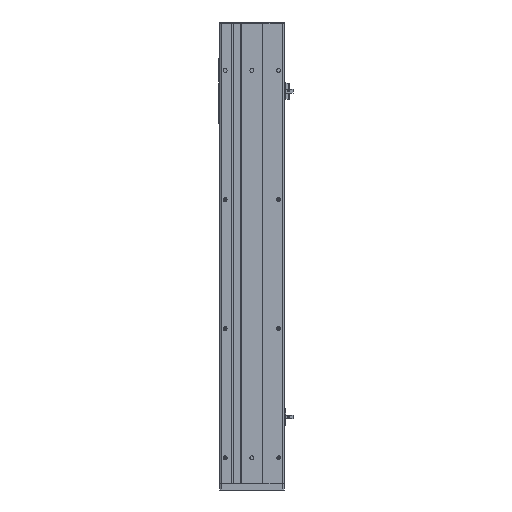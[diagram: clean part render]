
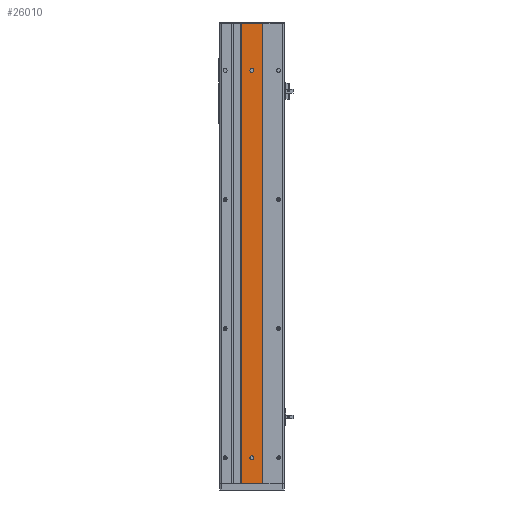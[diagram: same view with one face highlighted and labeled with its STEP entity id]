
A CAD part, front view. The second image highlights one B-rep face of the part: STEP entity #26010.
In plain terms, the highlighted planar face has unit normal (0, -1, 0).
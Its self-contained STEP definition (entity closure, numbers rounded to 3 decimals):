
#304 = DIRECTION ( 'NONE',  ( 1., 0., 0. ) ) ;
#586 = EDGE_LOOP ( 'NONE', ( #3623, #10998 ) ) ;
#946 = EDGE_CURVE ( 'NONE', #26175, #5107, #30854, .T. ) ;
#1700 = CARTESIAN_POINT ( 'NONE',  ( 0., 0., 286.5 ) ) ;
#2981 = VERTEX_POINT ( 'NONE', #20573 ) ;
#3254 = VECTOR ( 'NONE', #304, 1000. ) ;
#3623 = ORIENTED_EDGE ( 'NONE', *, *, #4183, .F. ) ;
#3786 = AXIS2_PLACEMENT_3D ( 'NONE', #12252, #12247, #12207 ) ;
#3973 = EDGE_CURVE ( 'NONE', #24787, #30326, #9943, .T. ) ;
#3986 = DIRECTION ( 'NONE',  ( 0., 0., 1. ) ) ;
#4036 = PLANE ( 'NONE',  #22137 ) ;
#4061 = VECTOR ( 'NONE', #5565, 1000. ) ;
#4153 = CARTESIAN_POINT ( 'NONE',  ( -16.5, 0., 356.5 ) ) ;
#4183 = EDGE_CURVE ( 'NONE', #8640, #29317, #11107, .T. ) ;
#4195 = CARTESIAN_POINT ( 'NONE',  ( 0., 0., 280.5 ) ) ;
#4312 = DIRECTION ( 'NONE',  ( 0., 1., 0. ) ) ;
#5107 = VERTEX_POINT ( 'NONE', #4195 ) ;
#5548 = CARTESIAN_POINT ( 'NONE',  ( 16.5, 0., 356.5 ) ) ;
#5565 = DIRECTION ( 'NONE',  ( 0., 0., -1. ) ) ;
#6244 = VECTOR ( 'NONE', #12439, 1000. ) ;
#8640 = VERTEX_POINT ( 'NONE', #26111 ) ;
#9265 = ORIENTED_EDGE ( 'NONE', *, *, #946, .F. ) ;
#9681 = CIRCLE ( 'NONE', #3786, 3. ) ;
#9943 = LINE ( 'NONE', #23205, #22267 ) ;
#10070 = LINE ( 'NONE', #31734, #3254 ) ;
#10998 = ORIENTED_EDGE ( 'NONE', *, *, #17143, .F. ) ;
#11107 = CIRCLE ( 'NONE', #17017, 3. ) ;
#11210 = DIRECTION ( 'NONE',  ( 0., 0., -1. ) ) ;
#11872 = ORIENTED_EDGE ( 'NONE', *, *, #20113, .F. ) ;
#12207 = DIRECTION ( 'NONE',  ( 0., 0., -1. ) ) ;
#12247 = DIRECTION ( 'NONE',  ( 0., -1., 0. ) ) ;
#12252 = CARTESIAN_POINT ( 'NONE',  ( 0., 0., -316.5 ) ) ;
#12264 = CARTESIAN_POINT ( 'NONE',  ( -16.5, 0., -356.5 ) ) ;
#12403 = CARTESIAN_POINT ( 'NONE',  ( -16.5, 0., 356.5 ) ) ;
#12408 = DIRECTION ( 'NONE',  ( 0., -1., 0. ) ) ;
#12439 = DIRECTION ( 'NONE',  ( 1., 0., 0. ) ) ;
#13020 = ORIENTED_EDGE ( 'NONE', *, *, #21892, .T. ) ;
#13038 = CARTESIAN_POINT ( 'NONE',  ( 0., 0., 283.5 ) ) ;
#13741 = EDGE_LOOP ( 'NONE', ( #13020, #25079, #30697, #15524 ) ) ;
#14776 = VERTEX_POINT ( 'NONE', #17090 ) ;
#15093 = LINE ( 'NONE', #5548, #4061 ) ;
#15524 = ORIENTED_EDGE ( 'NONE', *, *, #3973, .T. ) ;
#16488 = AXIS2_PLACEMENT_3D ( 'NONE', #30603, #29683, #29580 ) ;
#17017 = AXIS2_PLACEMENT_3D ( 'NONE', #20516, #20481, #20475 ) ;
#17090 = CARTESIAN_POINT ( 'NONE',  ( 16.5, 0., 356.5 ) ) ;
#17143 = EDGE_CURVE ( 'NONE', #29317, #8640, #9681, .T. ) ;
#17157 = AXIS2_PLACEMENT_3D ( 'NONE', #13038, #12408, #11210 ) ;
#18644 = EDGE_LOOP ( 'NONE', ( #11872, #9265 ) ) ;
#19368 = FACE_BOUND ( 'NONE', #586, .T. ) ;
#19452 = EDGE_CURVE ( 'NONE', #24787, #14776, #25166, .T. ) ;
#20113 = EDGE_CURVE ( 'NONE', #5107, #26175, #22111, .T. ) ;
#20140 = FACE_BOUND ( 'NONE', #18644, .T. ) ;
#20475 = DIRECTION ( 'NONE',  ( 0., 0., -1. ) ) ;
#20481 = DIRECTION ( 'NONE',  ( 0., -1., 0. ) ) ;
#20516 = CARTESIAN_POINT ( 'NONE',  ( 0., 0., -316.5 ) ) ;
#20573 = CARTESIAN_POINT ( 'NONE',  ( 16.5, 0., -356.5 ) ) ;
#21892 = EDGE_CURVE ( 'NONE', #30326, #2981, #10070, .T. ) ;
#22111 = CIRCLE ( 'NONE', #16488, 3. ) ;
#22137 = AXIS2_PLACEMENT_3D ( 'NONE', #4153, #4312, #3986 ) ;
#22267 = VECTOR ( 'NONE', #23174, 1000. ) ;
#23174 = DIRECTION ( 'NONE',  ( 0., 0., -1. ) ) ;
#23205 = CARTESIAN_POINT ( 'NONE',  ( -16.5, 0., 356.5 ) ) ;
#24787 = VERTEX_POINT ( 'NONE', #27165 ) ;
#25079 = ORIENTED_EDGE ( 'NONE', *, *, #25933, .F. ) ;
#25166 = LINE ( 'NONE', #12403, #6244 ) ;
#25933 = EDGE_CURVE ( 'NONE', #14776, #2981, #15093, .T. ) ;
#26010 = ADVANCED_FACE ( 'NONE', ( #19368, #20140, #31888 ), #4036, .F. ) ;
#26111 = CARTESIAN_POINT ( 'NONE',  ( 0., 0., -319.5 ) ) ;
#26175 = VERTEX_POINT ( 'NONE', #1700 ) ;
#27165 = CARTESIAN_POINT ( 'NONE',  ( -16.5, 0., 356.5 ) ) ;
#28904 = CARTESIAN_POINT ( 'NONE',  ( 0., 0., -313.5 ) ) ;
#29317 = VERTEX_POINT ( 'NONE', #28904 ) ;
#29580 = DIRECTION ( 'NONE',  ( 0., 0., -1. ) ) ;
#29683 = DIRECTION ( 'NONE',  ( 0., -1., 0. ) ) ;
#30326 = VERTEX_POINT ( 'NONE', #12264 ) ;
#30603 = CARTESIAN_POINT ( 'NONE',  ( 0., 0., 283.5 ) ) ;
#30697 = ORIENTED_EDGE ( 'NONE', *, *, #19452, .F. ) ;
#30854 = CIRCLE ( 'NONE', #17157, 3. ) ;
#31734 = CARTESIAN_POINT ( 'NONE',  ( -16.5, 0., -356.5 ) ) ;
#31888 = FACE_OUTER_BOUND ( 'NONE', #13741, .T. ) ;
